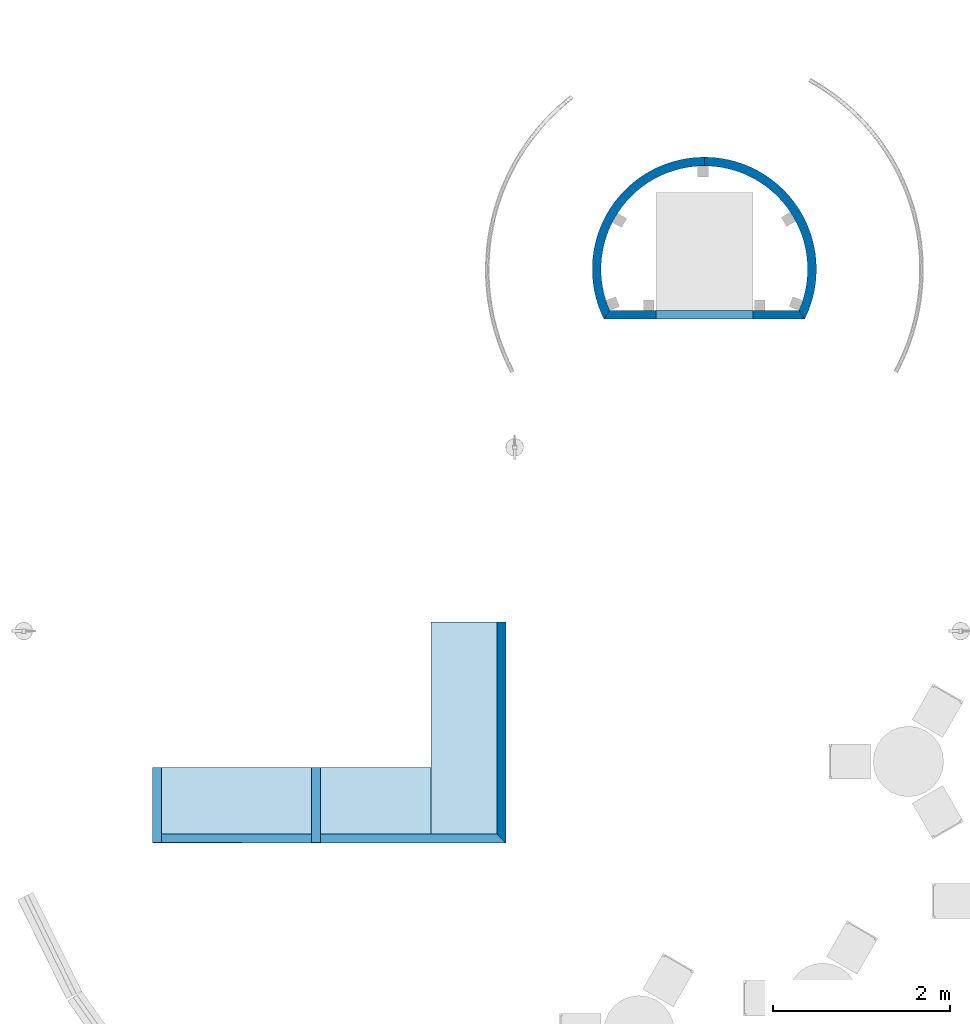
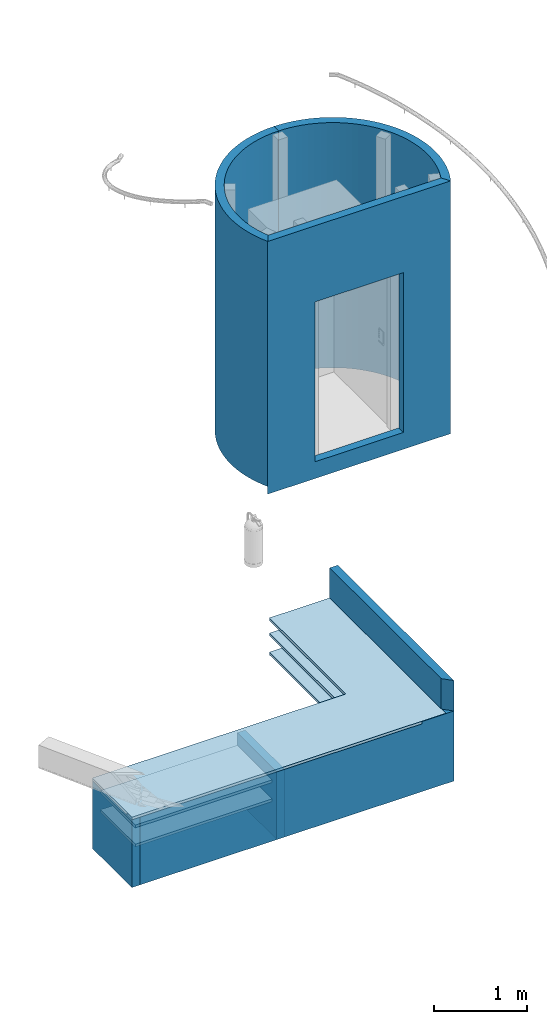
# One storey, part 4 of 6: 7 walls, 5 slabs, 1 opening.
"""IFC4 building model written with IfcOpenShell, lengths in millimetres."""

from ifc_helpers import new_model, entity, si_unit, converted_unit, derived_unit, direction, frame, origin_with_axes, origin_2d_with_axis, place, context, subcontext, project, spatial, line, arc, indexed_curve, rectangle, outline, extrude, material, layer, layer_set, layer_usage, type_object, element, save


model = new_model("IFC4")

# Units and contexts
model_context = context("Model", 3, precision=0.01, world=origin_with_axes(), true_north=direction((0.0, 1.0)))
body_context = subcontext(model_context, "Body", "Model", "MODEL_VIEW")
ifc_project = project(units=[si_unit("LENGTHUNIT", "METRE", prefix="MILLI"), si_unit("AREAUNIT", "SQUARE_METRE"), si_unit("VOLUMEUNIT", "CUBIC_METRE"), converted_unit("PLANEANGLEUNIT", "DEGREE", entity("IfcPlaneAngleMeasure", 0.0174532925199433), si_unit("PLANEANGLEUNIT", "RADIAN"), dimensions=[0, 0, 0, 0, 0, 0, 0]), converted_unit("TIMEUNIT", "Year", entity("IfcTimeMeasure", 31557600.0), si_unit("TIMEUNIT", "SECOND"), dimensions=[0, 0, 1, 0, 0, 0, 0]), si_unit("MASSUNIT", "GRAM", prefix="KILO"), si_unit("THERMODYNAMICTEMPERATUREUNIT", "DEGREE_CELSIUS"), si_unit("LUMINOUSINTENSITYUNIT", "LUMEN"), si_unit("ENERGYUNIT", "JOULE", prefix="MEGA"), derived_unit("THERMALCONDUCTANCEUNIT", [(si_unit("POWERUNIT", "WATT"), 1), (si_unit("LENGTHUNIT", "METRE"), -1), (si_unit("THERMODYNAMICTEMPERATUREUNIT", "KELVIN"), -1)]), derived_unit("SPECIFICHEATCAPACITYUNIT", [(si_unit("ENERGYUNIT", "JOULE"), 1), (si_unit("MASSUNIT", "GRAM", prefix="KILO"), -1), (si_unit("THERMODYNAMICTEMPERATUREUNIT", "KELVIN"), -1)]), derived_unit("MASSDENSITYUNIT", [(si_unit("MASSUNIT", "GRAM", prefix="KILO"), 1), (si_unit("VOLUMEUNIT", "CUBIC_METRE"), -1)])], contexts=[model_context])

# Site, building, storey
site_placement = place(None, origin_with_axes())
site = spatial("IfcSite", under=ifc_project, at=site_placement, Name="Exteriér", CompositionType="ELEMENT")
building_placement = place(site_placement, origin_with_axes())
building = spatial("IfcBuilding", under=site, at=building_placement, Name="Univerzitní lezecké centrum", CompositionType="ELEMENT")
storey_placement = place(building_placement, origin_with_axes())
storey = spatial("IfcBuildingStorey", under=building, at=storey_placement, Name="1.NP", CompositionType="ELEMENT", Elevation=0.0)

# Slabs
ifc_material_1 = material(Name="Dřevo - nábytek")
ifc_layer_1 = layer(ifc_material_1, 35.0, ventilated="UNKNOWN", Name="Dřevo - nábytek")
ifc_layer_set_1 = layer_set([ifc_layer_1], Name="Dřevo - nábytek 35")
ifc_layer_usage_1 = layer_usage(ifc_layer_set_1, "AXIS3", "NEGATIVE", 35.0)
slab_type = type_object("IfcSlabType", Name="Dřevo - nábytek 35", PredefinedType="FLOOR")
slab_1_placement = place(storey_placement, frame((-3800.376721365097, -1948.374858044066, 925.0), z_axis=(0.0, 0.0, 1.0), x_axis=(1.0, 0.0, 0.0)))
element("IfcSlab", 1, at=slab_1_placement, inside=storey, type_object=slab_type, material=ifc_layer_usage_1, Name="TV01", PredefinedType="FLOOR", context=body_context, shape_type="SweptSolid", body=[
    extrude(outline(indexed_curve([(0.0, 0.0), (0.0, -851.6251419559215), (3900.405207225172, -851.6251419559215), (3900.405207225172, 1648.374843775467), (3150.405226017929, 1648.374843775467), (3150.405226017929, 0.0)], segments=[line(1, 2, 3, 4, 5, 6, 1)])), frame((0.0, 0.0, -35.0), z_axis=(0.0, 0.0, 1.0), x_axis=(1.0, 0.0, 0.0)), (0.0, 0.0, 1.0), 35.0),
])
ifc_layer_usage_2 = layer_usage(ifc_layer_set_1, "AXIS3", "NEGATIVE", 35.0)
slab_2_placement = place(storey_placement, frame((-3700.376721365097, -1948.374858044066, 475.0), z_axis=(0.0, 0.0, 1.0), x_axis=(1.0, 0.0, 0.0)))
element("IfcSlab", 2, at=slab_2_placement, inside=storey, type_object=slab_type, material=ifc_layer_usage_2, Name="TV01", PredefinedType="FLOOR", context=body_context, shape_type="SweptSolid", body=[
    extrude(outline(indexed_curve([(0.0, 0.0), (0.0, -751.6251515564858), (1700.405229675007, -751.6251515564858), (1700.405229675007, 0.0)], segments=[line(1, 2, 3, 4, 1)])), frame((0.0, 0.0, -35.0), z_axis=(0.0, 0.0, 1.0), x_axis=(1.0, 0.0, 0.0)), (0.0, 0.0, 1.0), 35.0),
])
ifc_layer_usage_3 = layer_usage(ifc_layer_set_1, "AXIS3", "NEGATIVE", 35.0)
slab_3_placement = place(storey_placement, frame((-3700.376721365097, -1948.374858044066, 725.0), z_axis=(0.0, 0.0, 1.0), x_axis=(1.0, 0.0, 0.0)))
element("IfcSlab", 3, at=slab_3_placement, inside=storey, type_object=slab_type, material=ifc_layer_usage_3, Name="TV01", PredefinedType="FLOOR", context=body_context, shape_type="SweptSolid", body=[
    extrude(outline(indexed_curve([(0.0, 0.0), (0.0, -751.6251515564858), (1700.405229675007, -751.6251515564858), (1700.405229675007, 0.0)], segments=[line(1, 2, 3, 4, 1)])), frame((0.0, 0.0, -35.0), z_axis=(0.0, 0.0, 1.0), x_axis=(1.0, 0.0, 0.0)), (0.0, 0.0, 1.0), 35.0),
])
ifc_layer_usage_4 = layer_usage(ifc_layer_set_1, "AXIS3", "NEGATIVE", 35.0)
slab_4_placement = place(storey_placement, frame((100.0284858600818, -300.0000061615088, 725.0), z_axis=(0.0, 0.0, 1.0), x_axis=(1.0, 0.0, 0.0)))
element("IfcSlab", 4, at=slab_4_placement, inside=storey, type_object=slab_type, material=ifc_layer_usage_4, Name="TV01", PredefinedType="FLOOR", context=body_context, shape_type="SweptSolid", body=[
    extrude(outline(indexed_curve([(0.0, 0.0), (-749.9999572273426, 0.0), (-749.9999572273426, -1650.000046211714), (-749.9999572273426, -2400.000003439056), (0.0, -2400.000003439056)], segments=[line(1, 2, 3, 4, 5, 1)])), frame((0.0, 0.0, -35.0), z_axis=(0.0, 0.0, 1.0), x_axis=(1.0, 0.0, 0.0)), (0.0, 0.0, 1.0), 35.0),
])
ifc_layer_usage_5 = layer_usage(ifc_layer_set_1, "AXIS3", "NEGATIVE", 35.0)
slab_5_placement = place(storey_placement, frame((100.0284858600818, -300.0000061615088, 475.0), z_axis=(0.0, 0.0, 1.0), x_axis=(1.0, 0.0, 0.0)))
element("IfcSlab", 5, at=slab_5_placement, inside=storey, type_object=slab_type, material=ifc_layer_usage_5, Name="TV01", PredefinedType="FLOOR", context=body_context, shape_type="SweptSolid", body=[
    extrude(outline(indexed_curve([(0.0, 0.0), (-749.9999572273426, 0.0), (-749.9999572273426, -1650.000046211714), (-749.9999572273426, -2400.000003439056), (0.0, -2400.000003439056)], segments=[line(1, 2, 3, 4, 5, 1)])), frame((0.0, 0.0, -35.0), z_axis=(0.0, 0.0, 1.0), x_axis=(1.0, 0.0, 0.0)), (0.0, 0.0, 1.0), 35.0),
])

# Walls
ifc_material_2 = material(Name="Sklo")
ifc_layer_2 = layer(ifc_material_2, 100.0, ventilated="UNKNOWN", Name="Sklo")
ifc_layer_set_2 = layer_set([ifc_layer_2], Name="Sklo 100")
ifc_layer_usage_6 = layer_usage(ifc_layer_set_2, "AXIS2", "NEGATIVE", 100.0)
wall_type_1 = type_object("IfcWallType", Name="Sklo 100", PredefinedType="NOTDEFINED")
wall_1_placement = place(storey_placement, frame((2449.851648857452, 4969.999999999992, -120.000000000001), z_axis=(0.0, 0.0, 1.0), x_axis=(-1.0, 0.0, 0.0)))
element("IfcWall", 6, at=wall_1_placement, inside=storey, type_object=wall_type_1, material=ifc_layer_usage_6, Name="Z054", PredefinedType="NOTDEFINED", context=body_context, shape_type="SweptSolid", body=[
    extrude(outline(indexed_curve([(0.0, 0.0), (1079.899584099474, 601.6311734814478), (1136.647587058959, 1836.508837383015), (1072.971484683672, 1736.510656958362), (978.4471034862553, 628.4851789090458), (0.0, 99.99999999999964)], segments=[arc(1, 2, 3), line(3, 4), arc(4, 5, 6), line(6, 1)])), origin_with_axes(), (0.0, 0.0, 1.0), 3220.0),
])
ifc_layer_usage_7 = layer_usage(ifc_layer_set_2, "AXIS2", "NEGATIVE", 100.0)
wall_2_placement = place(storey_placement, frame((3586.466856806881, 3133.426201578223, -120.000000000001), z_axis=(0.0, 0.0, 1.0), x_axis=(0.446121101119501, 0.8949726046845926, 0.0)))
element("IfcWall", 7, at=wall_2_placement, inside=storey, type_object=wall_type_1, material=ifc_layer_usage_7, Name="Z055", PredefinedType="NOTDEFINED", context=body_context, shape_type="SweptSolid", body=[
    extrude(outline(indexed_curve([(0.0, 0.0), (1079.918683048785, 601.662033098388), (1136.615207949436, 1836.573798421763), (1047.117947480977, 1791.961688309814), (1010.627243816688, 680.4810655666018), (61.09418564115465, 101.5961740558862)], segments=[arc(1, 2, 3), line(3, 4), arc(4, 5, 6), line(6, 1)])), origin_with_axes(), (0.0, 0.0, 1.0), 3220.0),
])

# Wall, opening
ifc_layer_usage_8 = layer_usage(ifc_layer_set_2, "AXIS2", "NEGATIVE", 100.0)
wall_3_placement = place(storey_placement, frame((1313.204061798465, 3133.491162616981, -220.000000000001), z_axis=(0.0, 0.0, 1.0), x_axis=(0.9999999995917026, -2.857612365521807e-05, 0.0)))
wall_3 = element("IfcWall", 8, at=wall_3_placement, inside=storey, type_object=wall_type_1, material=ifc_layer_usage_8, Name="Z053", PredefinedType="NOTDEFINED", context=body_context, shape_type="SweptSolid", body=[
    extrude(outline(indexed_curve([(0.0, 0.0), (2273.262795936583, 0.0), (2209.589551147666, 99.99999999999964), (63.67324478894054, 100.0000000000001)], segments=[line(1, 2, 3, 4, 1)])), origin_with_axes(), (0.0, 0.0, 1.0), 3320.000000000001),
])
opening_placement = place(wall_3_placement, frame((1136.628541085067, 0.0, 220.000000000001), z_axis=(0.0, 0.0, 1.0), x_axis=(1.0, 0.0, 0.0)))
element("IfcOpeningElement", 9, at=opening_placement, cuts=wall_3, context=body_context, shape_type="SweptSolid", body=[
    extrude(rectangle(XDim=1097.999999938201, YDim=2100.0, at=origin_2d_with_axis()), frame((0.0, -100.0000000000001, 1050.0), z_axis=(0.0, 1.0, 0.0), x_axis=(-1.0, 0.0, 0.0)), (0.0, 0.0, 1.0), 300.0000000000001),
])

# Walls
ifc_layer_3 = layer(ifc_material_1, 100.0, ventilated="UNKNOWN", Name="Dřevo - nábytek")
ifc_layer_set_3 = layer_set([ifc_layer_3], Name="Dřevo - nábytek 100")
ifc_layer_usage_9 = layer_usage(ifc_layer_set_3, "AXIS2", "NEGATIVE", 100.0)
wall_type_2 = type_object("IfcWallType", Name="Dřevo - nábytek 100", PredefinedType="NOTDEFINED")
wall_4_placement = place(storey_placement, frame((-3800.3767213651, -2798.374858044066, 0.0), z_axis=(0.0, 0.0, 1.0), x_axis=(0.9999999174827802, -0.0004062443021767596, 0.0)))
element("IfcWall", 10, at=wall_4_placement, inside=storey, type_object=wall_type_2, material=ifc_layer_usage_9, Name="Z063", PredefinedType="NOTDEFINED", context=body_context, shape_type="SweptSolid", body=[
    extrude(outline(indexed_curve([(0.0, 0.0), (4000.405537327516, 0.0), (3900.364904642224, 100.0000000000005), (0.0, 100.0000000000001)], segments=[line(1, 2, 3, 4, 1)])), origin_with_axes(), (0.0, 0.0, 1.0), 920.0),
])
ifc_layer_usage_10 = layer_usage(ifc_layer_set_3, "AXIS2", "NEGATIVE", 100.0)
wall_5_placement = place(storey_placement, frame((200.0284858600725, -2800.000000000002, 0.0), z_axis=(0.0, 0.0, 1.0), x_axis=(0.0, 1.0, 0.0)))
element("IfcWall", 11, at=wall_5_placement, inside=storey, type_object=wall_type_2, material=ifc_layer_usage_10, Name="TV01", PredefinedType="NOTDEFINED", context=body_context, shape_type="SweptSolid", body=[
    extrude(outline(indexed_curve([(0.0, 0.0), (2500.0, 0.0), (2500.0, 100.0), (100.0406326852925, 100.0)], segments=[line(1, 2, 3, 4, 1)])), origin_with_axes(), (0.0, 0.0, 1.0), 1320.0),
])
ifc_layer_usage_11 = layer_usage(ifc_layer_set_3, "AXIS2", "NEGATIVE", 100.0)
wall_6_placement = place(storey_placement, frame((-3700.3767213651, -2798.374858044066, 0.0), z_axis=(0.0, 0.0, 1.0), x_axis=(0.0, 1.0, 0.0)))
element("IfcWall", 12, at=wall_6_placement, inside=storey, type_object=wall_type_2, material=ifc_layer_usage_11, Name="TV01", PredefinedType="NOTDEFINED", context=body_context, shape_type="SweptSolid", body=[
    extrude(outline(indexed_curve([(0.0, 0.0), (850.0000000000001, 0.0), (850.0000000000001, 100.0000000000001), (0.0, 100.0000000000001)], segments=[line(1, 2, 3, 4, 1)])), origin_with_axes(), (0.0, 0.0, 1.0), 890.0000000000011),
])
ifc_layer_usage_12 = layer_usage(ifc_layer_set_3, "AXIS2", "NEGATIVE", 100.0)
wall_7_placement = place(storey_placement, frame((-1899.971497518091, -2798.36527487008, 0.0), z_axis=(0.0, 0.0, 1.0), x_axis=(0.0, 1.0, 0.0)))
element("IfcWall", 13, at=wall_7_placement, inside=storey, type_object=wall_type_2, material=ifc_layer_usage_12, Name="TV01", PredefinedType="NOTDEFINED", context=body_context, shape_type="SweptSolid", body=[
    extrude(outline(indexed_curve([(0.0, 0.0), (850.0000000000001, 0.0), (850.0000000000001, 100.0000000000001), (0.0, 100.0000000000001)], segments=[line(1, 2, 3, 4, 1)])), origin_with_axes(), (0.0, 0.0, 1.0), 890.0000000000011),
])

save(model, "model.ifc")
